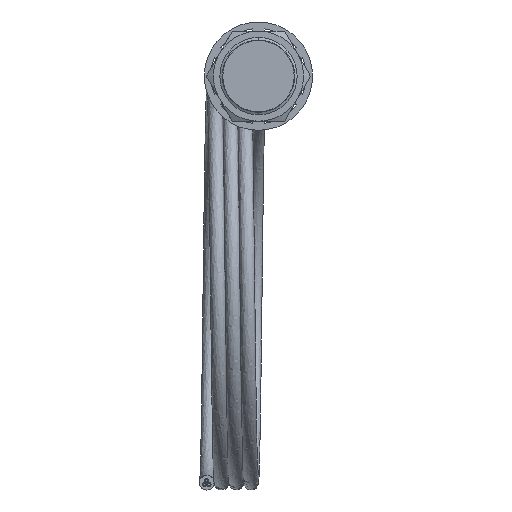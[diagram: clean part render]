
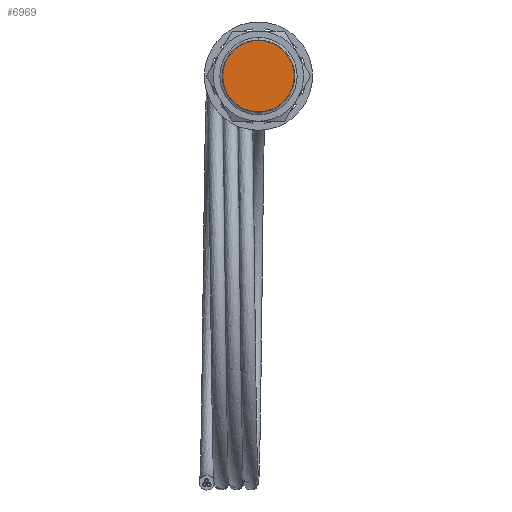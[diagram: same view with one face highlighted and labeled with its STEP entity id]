
A CAD part, left-side view. The second image highlights one B-rep face of the part: STEP entity #6969.
In plain terms, the highlighted planar face has unit normal (-1, 0, 0).
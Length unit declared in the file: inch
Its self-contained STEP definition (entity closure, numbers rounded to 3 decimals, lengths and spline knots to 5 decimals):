
#14 = CIRCLE ( 'NONE', #15, 0.5465 ) ;
#15 = AXIS2_PLACEMENT_3D ( 'NONE', #16, #17, #18 ) ;
#16 = CARTESIAN_POINT ( 'NONE',  ( 0.84792, 4.09716, -0.26057 ) ) ;
#17 = DIRECTION ( 'NONE',  ( 1., 0., 0. ) ) ;
#18 = DIRECTION ( 'NONE',  ( 0., 0., -1. ) ) ;
#559 = VERTEX_POINT ( 'NONE', #12000 ) ;
#799 = VERTEX_POINT ( 'NONE', #12105 ) ;
#1043 = EDGE_CURVE ( 'NONE', #799, #559, #12203, .T. ) ;
#1436 = FACE_OUTER_BOUND ( 'NONE', #6712, .T. ) ;
#1437 = PLANE ( 'NONE',  #1438 ) ;
#1438 = AXIS2_PLACEMENT_3D ( 'NONE', #1439, #1440, #1441 ) ;
#1439 = CARTESIAN_POINT ( 'NONE',  ( 0.84792, 4.09716, -0.26057 ) ) ;
#1440 = DIRECTION ( 'NONE',  ( -1., 0., 0. ) ) ;
#1441 = DIRECTION ( 'NONE',  ( 0., 0., 1. ) ) ;
#5200 = EDGE_CURVE ( 'NONE', #559, #799, #14, .T. ) ;
#5590 = ORIENTED_EDGE ( 'NONE', *, *, #5200, .F. ) ;
#6153 = ORIENTED_EDGE ( 'NONE', *, *, #1043, .F. ) ;
#6712 = EDGE_LOOP ( 'NONE', ( #6153, #5590 ) ) ;
#6969 = ADVANCED_FACE ( 'NONE', ( #1436 ), #1437, .T. ) ;
#12000 = CARTESIAN_POINT ( 'NONE',  ( 0.84792, 4.09716, 0.28593 ) ) ;
#12105 = CARTESIAN_POINT ( 'NONE',  ( 0.84792, 4.09716, -0.80707 ) ) ;
#12203 = CIRCLE ( 'NONE', #12204, 0.5465 ) ;
#12204 = AXIS2_PLACEMENT_3D ( 'NONE', #12205, #12210, #12211 ) ;
#12205 = CARTESIAN_POINT ( 'NONE',  ( 0.84792, 4.09716, -0.26057 ) ) ;
#12210 = DIRECTION ( 'NONE',  ( 1., 0., 0. ) ) ;
#12211 = DIRECTION ( 'NONE',  ( 0., 0., -1. ) ) ;
